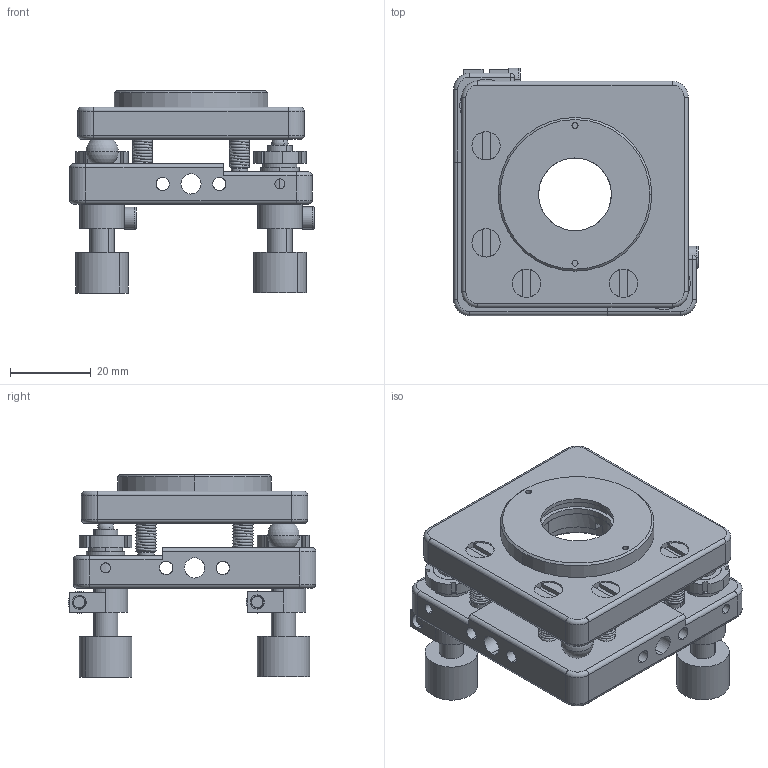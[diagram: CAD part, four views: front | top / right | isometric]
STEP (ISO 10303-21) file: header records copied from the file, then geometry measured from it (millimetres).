
FILE_DESCRIPTION (( 'STEP AP203' ), '1' );
FILE_NAME ('7MM0620謗峎覃淕噩殤.STEP', '2019-10-17T08:57:55', ( '' ), ( '' ), 'SwSTEP 2.0', 'SolidWorks 2014', '' );
FILE_SCHEMA (( 'CONFIG_CONTROL_DESIGN' ));
Length unit declared in the file: millimetre
Products named in the file (1): 7MM0620謗峎覃淕噩殤
Bounding box: 60.5 x 61.25 x 50 mm (x, y, z)
Surface area: 23127.8 mm2 (no closed solid volume)
Topology: 0 solids, 40 shells, 358 faces, 1020 edges, 681 vertices
Faces by surface type: plane 156, cylinder 149, torus 18, cone 17, sphere 10, bspline 8
Entity records: 22547 total; most frequent: CARTESIAN_POINT 13136, DIRECTION 2100, ORIENTED_EDGE 1675, EDGE_CURVE 997, AXIS2_PLACEMENT_3D 814, VERTEX_POINT 672, LINE 472, VECTOR 472
